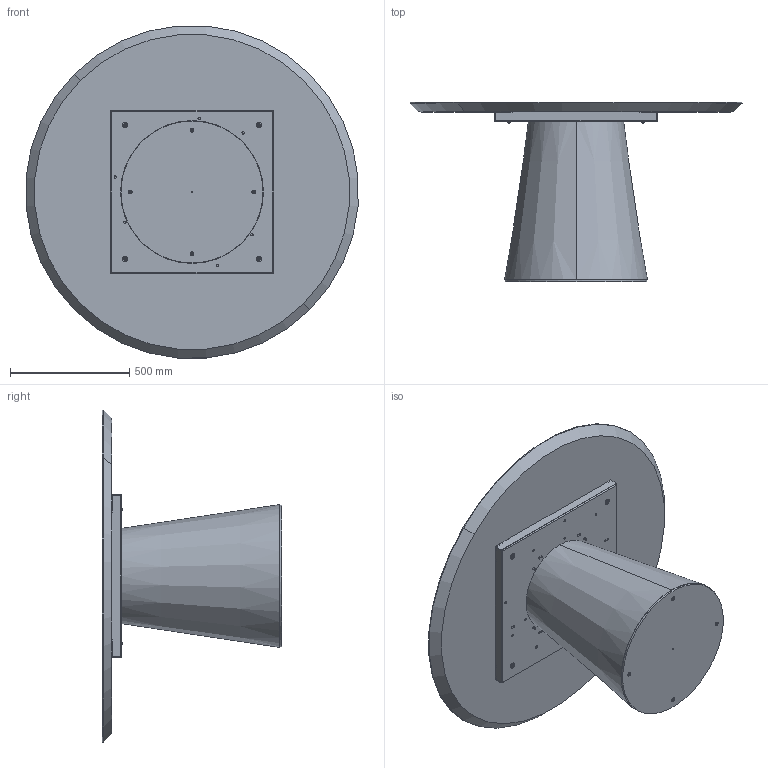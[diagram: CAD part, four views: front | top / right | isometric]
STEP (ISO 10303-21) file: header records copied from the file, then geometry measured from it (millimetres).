
FILE_DESCRIPTION (( 'STEP AP203' ), '1' );
FILE_NAME ('TO06W_Teo_d.140_Wood.STEP', '2024-08-02T09:22:37', ( '' ), ( '' ), 'SwSTEP 2.0', 'SolidWorks 2022', '' );
FILE_SCHEMA (( 'CONFIG_CONTROL_DESIGN' ));
Length unit declared in the file: millimetre
Products named in the file (12): TO06W_Teo_d.140_Wood; M8xXXmm_M8x55mm; TTAV0801 TELAIO UNIVERSALE TONDO-PIASTRINA; TEO0000-00-TEO BASE LEGNO IMPIALLACCIATA LEVIGATO PRONTA X VERNICE; BASE TED LEGNO CON ZAVORRA; rondella M8_8X24; TTAV0801-02-TELAIO UNIVERSALE TONDO-VASSOIO; TTAV0801-02-TELAIO UNIVERSALE TONDO; M8xXXmm_hex_M8X20mm; TEO000000PIA-00-TEO PIASTRA DI BASE IN METALLO GREZZO; COLLO TELAIO UNIVERSALE TTAV0801 CON FERRAMENTA_MTG TOP LEGNO-MARMO-KING; W1XCMXX-00-Piani Rotondi legno_D.1400
Assembly tree (23 placements, depth 4):
  TO06W_Teo_d.140_Wood
    BASE TED LEGNO CON ZAVORRA
      TEO000000PIA-00-TEO PIASTRA DI BASE IN METALLO GREZZO
      TEO0000-00-TEO BASE LEGNO IMPIALLACCIATA LEVIGATO PRONTA X VERNICE
      M8xXXmm_hex_M8X20mm  x4
    COLLO TELAIO UNIVERSALE TTAV0801 CON FERRAMENTA_MTG TOP LEGNO-MARMO-KING
      TTAV0801-02-TELAIO UNIVERSALE TONDO
        TTAV0801-02-TELAIO UNIVERSALE TONDO-VASSOIO
        TTAV0801 TELAIO UNIVERSALE TONDO-PIASTRINA  x4
      rondella M8_8X24  x4
      M8xXXmm_M8x55mm  x4
    W1XCMXX-00-Piani Rotondi legno_D.1400
Bounding box: 1394.67 x 753.19 x 1394.67 mm (x, y, z)
Volume: 88862145.6 mm3; surface area: 7585831.8 mm2
Topology: 20 solids, 20 shells, 806 faces, 2014 edges, 1238 vertices
Faces by surface type: plane 370, cylinder 290, cone 90, torus 56
Entity records: 15616 total; most frequent: DIRECTION 2540, CARTESIAN_POINT 2450, ORIENTED_EDGE 2330, EDGE_CURVE 1165, AXIS2_PLACEMENT_3D 919, VERTEX_POINT 743, VECTOR 702, LINE 702
